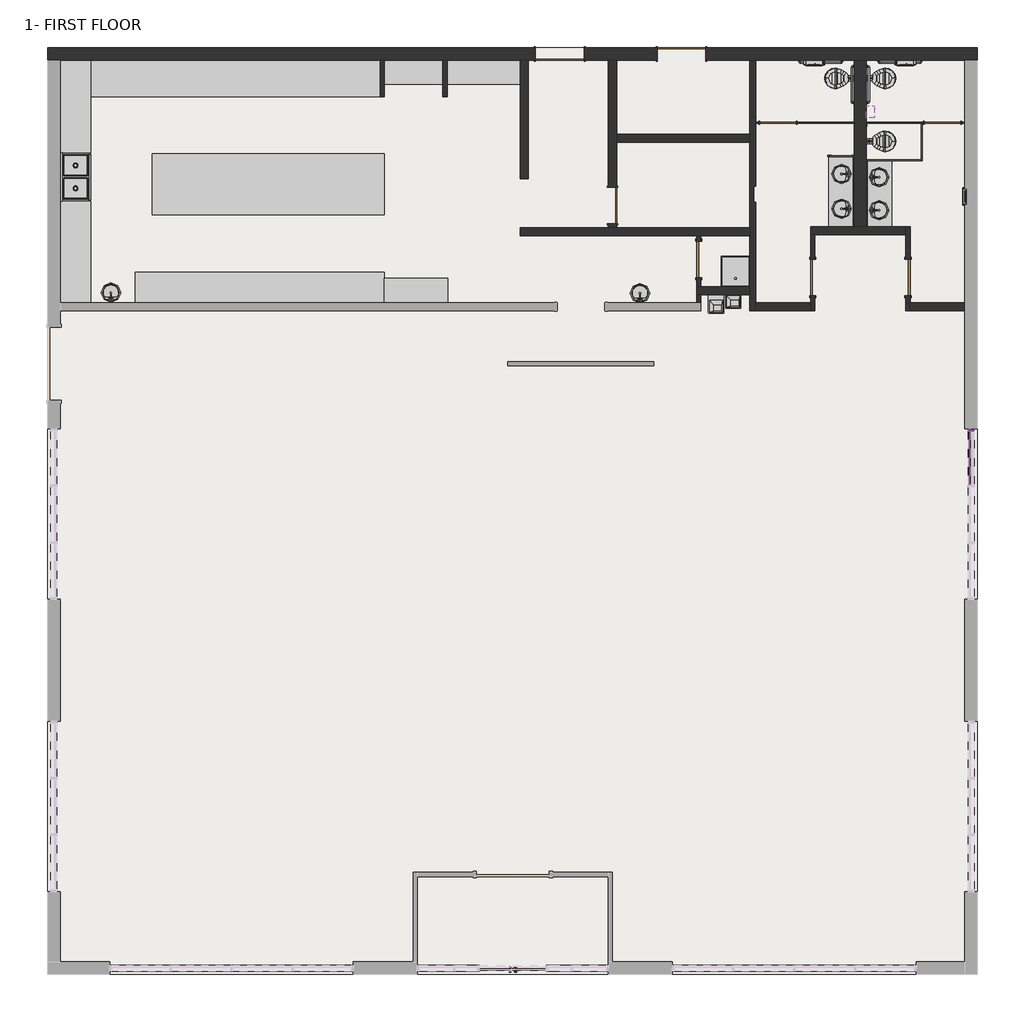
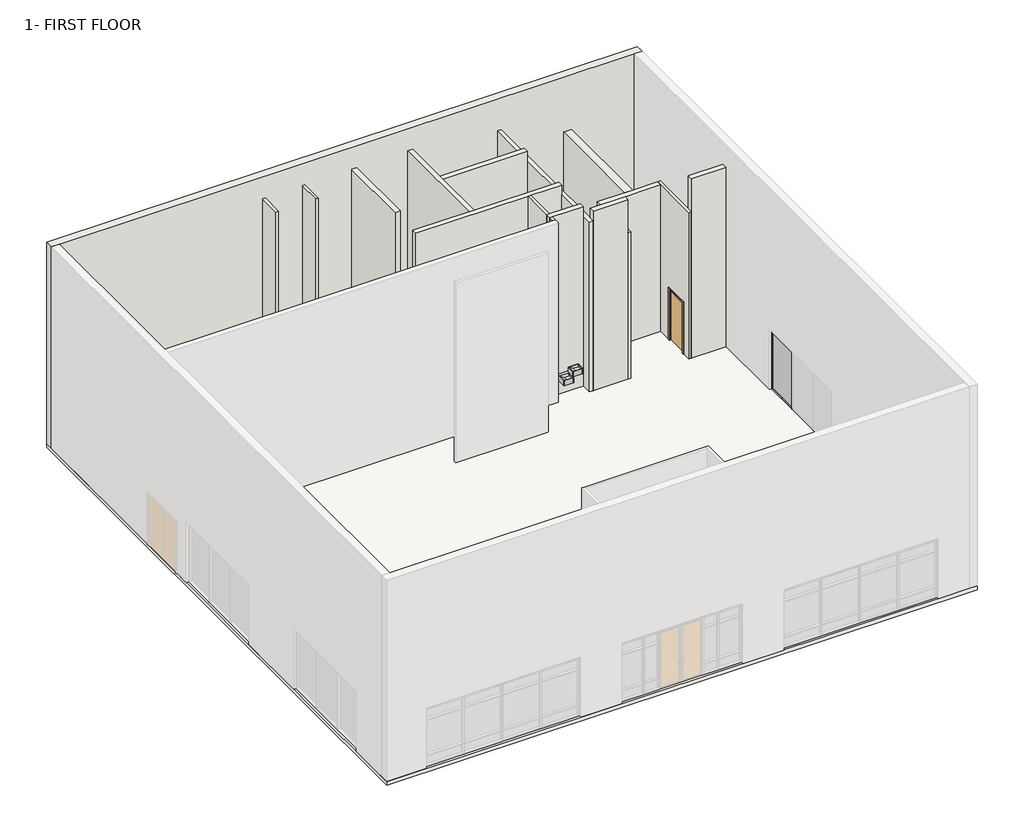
# One storey, part 4 of 4: 19 walls, 13 flow terminals, 10 furniture elements, 9 proxies, 8 doors, 3 members, 2 plates, 1 slab.
"""IFC4 building model written with IfcOpenShell, lengths in millimetres."""

from ifc_helpers import new_model, si_unit, frame, origin, origin_with_axes, place, context, project, spatial, polyline, outline, extrude, faceted_brep, transform, mapped, element, save
from components import specialty_equipment_a66543ee, proxy_90ccbdc6, b_2892_8b92a380, b_3942_b31eb5a3, grab_bar_3d_grab_bar_3d_00f4341b, grab_bar_3d_grab_bar_3d_a3ed3e83, sanitary_napkin_vendor_bobrick_b2706_surface_mounted_b2706_1ca780e9, urinal_screen_bobrick_b1030_urinal_screen_b_1033_217b7228, door_30197504, door_1bfde783, door_633a1af0, door_d072e4ca, door_58341a05, door_34cfb44a, flow_terminal_df21477b, flow_terminal_a46089cf, flow_terminal_d265f877, m_sink_vanity_round_482_x_482mm_5483c1b3, m_sink_vanity_round_482_x_482mm_b62b67b0, flow_terminal_32f39d9c, flow_terminal_5184717d, flow_terminal_6ae34ecf, flow_terminal_faf6b21e, flow_terminal_070f706b, flow_terminal_8339c4de, ct030_countertop_24dx30h_820104b9, ct030_countertop_24dx30h_36d05423, ct030_countertop_24dx30h_fcd22b56, ct030_countertop_30dx30h_2_41c53904, ct030_countertop_30dx30h_2_705c02c1, ct030_countertop_30dx30h_2_7152484d, ct030_countertop_36dx30h_2_9893120a, ct030_countertop_60dx30h_2_f698759c, furniture_e90efae6, furniture_9143c602, rectangular_mullion_50_x_150mm_a8ea6182, rectangular_mullion_50_x_150mm_d49d4e0b, rectangular_mullion_50_x_150mm_662c37b1, system_panel_glazed_50cfc5fc, system_panel_glazed_3a738299

model = new_model("IFC4")

# Units and contexts
model_context = context("Model", 3, world=origin())
ifc_project = project(units=[si_unit("LENGTHUNIT", "METRE", prefix="MILLI")], contexts=[model_context])

# Site, building, storey
site = spatial("IfcSite", under=ifc_project)
building = spatial("IfcBuilding", under=site)
storey = spatial("IfcBuildingStorey", under=building, Name="1- FIRST FLOOR", Elevation=0.0)

# Proxies
placement = place(None, origin())
specialty_equipment_shape = specialty_equipment_a66543ee(model_context)
element("IfcBuildingElementProxy", 1, Name="Dispencer-Toilet Paper-2D : Dispencer-Toilet Paper-2D", ObjectType="Dispencer-Toilet Paper-2D : Dispencer-Toilet Paper-2D", at=placement, inside=storey, context=model_context, shape_type="MappedRepresentation", body=[
    mapped(specialty_equipment_shape, transform((2937.6120129, 8427.3786668, 0.0), x_axis=(0.0, 1.0, 0.0), y_axis=(-1.0, 0.0, 0.0), z_axis=(0.0, 0.0, 1.0))),
])
proxy_shape = proxy_90ccbdc6(model_context)
element("IfcBuildingElementProxy", 2, Name="Toilet Stall-3D w Toilet : 32\" x 56\" Clear", ObjectType="Toilet Stall-3D w Toilet : 32\" x 56\" Clear", at=placement, inside=storey, context=model_context, shape_type="MappedRepresentation", body=[
    mapped(proxy_shape, transform((2785.2120129, 7565.2755129, 0.0), x_axis=(0.0, 1.0, 0.0), y_axis=(-1.0, 0.0, 0.0), z_axis=(0.0, 0.0, 1.0))),
])
b_2892_shape = b_2892_8b92a380(model_context)
element("IfcBuildingElementProxy", 3, Name="Toilet_Tissue_Dispenser-Bobrick-B2892-Twin_Jumbo_Roll-Surface_Mounted : B-2892", ObjectType="Toilet_Tissue_Dispenser-Bobrick-B2892-Twin_Jumbo_Roll-Surface_Mounted : B-2892", at=placement, inside=storey, context=model_context, shape_type="MappedRepresentation", body=[
    mapped(b_2892_shape, transform((1631.8932629, 10002.1786668, 906.4625), x_axis=(-1.0, 0.0, 0.0), y_axis=(0.0, 0.0, -1.0), z_axis=(0.0, -1.0, 0.0))),
])
element("IfcBuildingElementProxy", 4, Name="Toilet_Tissue_Dispenser-Bobrick-B2892-Twin_Jumbo_Roll-Surface_Mounted : B-2892", ObjectType="Toilet_Tissue_Dispenser-Bobrick-B2892-Twin_Jumbo_Roll-Surface_Mounted : B-2892", at=placement, inside=storey, context=model_context, shape_type="MappedRepresentation", body=[
    mapped(b_2892_shape, transform((3913.1307629, 10002.1786668, 906.4625), x_axis=(-1.0, 0.0, 0.0), y_axis=(0.0, 0.0, -1.0), z_axis=(0.0, -1.0, 0.0))),
])
b_3942_shape = b_3942_b31eb5a3(model_context)
element("IfcBuildingElementProxy", 5, Name="Paper_Towel_Dispenser_And_Waste_Receptacle-Bobrick-B3942-Semi_Recessed_Convertible : B-3942", ObjectType="Paper_Towel_Dispenser_And_Waste_Receptacle-Bobrick-B3942-Semi_Recessed_Convertible : B-3942", at=placement, inside=storey, context=model_context, shape_type="MappedRepresentation", body=[
    mapped(b_3942_shape, transform((5401.4120129, 6588.2599168, 530.225), x_axis=(0.0, 1.0, 0.0), y_axis=(0.0, 0.0, -1.0), z_axis=(-1.0, 0.0, 0.0))),
])
grab_bar_3d_grab_bar_3d_shape = grab_bar_3d_grab_bar_3d_00f4341b(model_context)
element("IfcBuildingElementProxy", 6, Name="Grab Bar-3D : Grab Bar-3D", ObjectType="Grab Bar-3D : Grab Bar-3D", at=placement, inside=storey, context=model_context, shape_type="MappedRepresentation", body=[
    mapped(grab_bar_3d_grab_bar_3d_shape, transform((2632.8120129, 10002.1786668, 0.0), x_axis=(0.0, 1.0, 0.0), y_axis=(-1.0, 0.0, 0.0), z_axis=(0.0, 0.0, 1.0))),
])
grab_bar_3d_grab_bar_3d_2_shape = grab_bar_3d_grab_bar_3d_a3ed3e83(model_context)
element("IfcBuildingElementProxy", 7, Name="Grab Bar-3D : Grab Bar-3D", ObjectType="Grab Bar-3D : Grab Bar-3D", at=placement, inside=storey, context=model_context, shape_type="MappedRepresentation", body=[
    mapped(grab_bar_3d_grab_bar_3d_2_shape, transform((2937.6120129, 10002.1786668, 0.0), x_axis=(0.0, 1.0, 0.0), y_axis=(-1.0, 0.0, 0.0), z_axis=(0.0, 0.0, 1.0))),
])
sanitary_napkin_vendor_bobrick_b2706_surface_mounted_b2706_shape = sanitary_napkin_vendor_bobrick_b2706_surface_mounted_b2706_1ca780e9(model_context)
element("IfcBuildingElementProxy", 8, Name="Sanitary_Napkin_Vendor-Bobrick-B2706-Surface_Mounted : B2706", ObjectType="Sanitary_Napkin_Vendor-Bobrick-B2706-Surface_Mounted : B2706", at=placement, inside=storey, context=model_context, shape_type="MappedRepresentation", body=[
    mapped(sanitary_napkin_vendor_bobrick_b2706_surface_mounted_b2706_shape, transform((2937.6120129, 8706.7786668, 1219.2), x_axis=(0.0, -1.0, 0.0), y_axis=(0.0, 0.0, -1.0), z_axis=(1.0, 0.0, 0.0))),
])
urinal_screen_bobrick_b1030_urinal_screen_b_1033_shape = urinal_screen_bobrick_b1030_urinal_screen_b_1033_217b7228(model_context)
element("IfcBuildingElementProxy", 9, Name="Urinal_Screen-Bobrick-B1030 : Urinal Screen B-1033", ObjectType="Urinal_Screen-Bobrick-B1030 : Urinal Screen B-1033", at=placement, inside=storey, context=model_context, shape_type="MappedRepresentation", body=[
    mapped(urinal_screen_bobrick_b1030_urinal_screen_b_1033_shape, transform((2632.8120129, 7601.8786668, 304.8), x_axis=(0.0, -1.0, 0.0), y_axis=(0.0, 0.0, 1.0), z_axis=(-1.0, 0.0, 0.0))),
])

# Doors
door_shape = door_30197504(model_context)
element("IfcDoor", 10, ObjectType="Single-Flush : 36' x 84\"", at=placement, inside=storey, context=model_context, shape_type="MappedRepresentation", body=[
    mapped(door_shape, transform((3979.0120129, 4563.4036668, 0.0), x_axis=(0.0, -1.0, 0.0), y_axis=(1.0, 0.0, 0.0), z_axis=(0.0, 0.0, 1.0))),
])
element("IfcDoor", 11, ObjectType="Single-Flush : 36' x 84\"", at=placement, inside=storey, context=model_context, shape_type="MappedRepresentation", body=[
    mapped(door_shape, transform((-1253.3879871, 5020.6036668, 0.0), x_axis=(0.0, 1.0, 0.0), y_axis=(-1.0, 0.0, 0.0), z_axis=(0.0, 0.0, 1.0))),
])
door_2_shape = door_1bfde783(model_context)
element("IfcDoor", 12, ObjectType="Single-Flush : 36' x 84\"", at=placement, inside=storey, context=model_context, shape_type="MappedRepresentation", body=[
    mapped(door_2_shape, transform((1591.4120129, 4563.4036668, 0.0), x_axis=(0.0, -1.0, 0.0), y_axis=(1.0, 0.0, 0.0), z_axis=(0.0, 0.0, 1.0))),
])
door_3_shape = door_633a1af0(model_context)
element("IfcDoor", 13, ObjectType="Single-Flush : 36' x 84\" (1\")", at=placement, inside=storey, context=model_context, shape_type="MappedRepresentation", body=[
    mapped(door_3_shape, transform((727.8120129, 8440.0786668, 0.0), x_axis=(-1.0, 0.0, 0.0), y_axis=(0.0, -1.0, 0.0), z_axis=(0.0, 0.0, 1.0))),
])
door_4_shape = door_d072e4ca(model_context)
element("IfcDoor", 14, ObjectType="Single-Flush : 36' x 84\" (1\")", at=placement, inside=storey, context=model_context, shape_type="MappedRepresentation", body=[
    mapped(door_4_shape, transform((4842.6120129, 8440.0786668, 0.0), x_axis=(1.0, 0.0, 0.0), y_axis=(0.0, 1.0, 0.0), z_axis=(0.0, 0.0, 1.0))),
])
door_5_shape = door_58341a05(model_context)
element("IfcDoor", 15, ObjectType="Single-Flush : 36' x 84\" (1\")", at=placement, inside=storey, context=model_context, shape_type="MappedRepresentation", body=[
    mapped(door_5_shape, transform((-3412.3879871, 6369.9786668, 0.0), x_axis=(0.0, -1.0, 0.0), y_axis=(1.0, 0.0, 0.0), z_axis=(0.0, 0.0, 1.0))),
])
door_6_shape = door_34cfb44a(model_context)
element("IfcDoor", 16, ObjectType="Single-Flush : 48 x 84\" (1\") 2", at=placement, inside=storey, context=model_context, shape_type="MappedRepresentation", body=[
    mapped(door_6_shape, transform((-4733.1879871, 10159.3411668, 0.0), x_axis=(-1.0, 0.0, 0.0), y_axis=(0.0, -1.0, 0.0), z_axis=(0.0, 0.0, 1.0))),
])
element("IfcDoor", 17, ObjectType="Single-Flush : 48 x 84\" (1\") 2", at=placement, inside=storey, context=model_context, shape_type="MappedRepresentation", body=[
    mapped(door_6_shape, transform((-1685.1879871, 10159.3411668, 0.0), x_axis=(1.0, 0.0, 0.0), y_axis=(0.0, 1.0, 0.0), z_axis=(0.0, 0.0, 1.0))),
])

# Flow terminals
flow_terminal_shape = flow_terminal_df21477b(model_context)
element("IfcFlowTerminal", 18, ObjectType="Drinking Fountain-Hi-Lo-3D : Drinking Fountain-Hi-Lo-3D", at=placement, inside=storey, context=model_context, shape_type="MappedRepresentation", body=[
    mapped(flow_terminal_shape, transform((-617.8065413, 4236.3786668, 0.0), x_axis=(-1.0, 0.0, 0.0), y_axis=(0.0, -1.0, 0.0), z_axis=(0.0, 0.0, 1.0))),
])
flow_terminal_2_shape = flow_terminal_a46089cf(model_context)
flow_terminal_3_shape = flow_terminal_d265f877(model_context)
element("IfcFlowTerminal", 19, ObjectType="equip-sink-elkaySSP-economy-DBL : ByType", at=placement, inside=storey, context=model_context, shape_type="MappedRepresentation", body=[
    mapped(flow_terminal_2_shape, transform((-16848.9879871, 7081.1786668, 0.0), x_axis=(0.0, 1.0, 0.0), y_axis=(-1.0, 0.0, 0.0), z_axis=(0.0, 0.0, 1.0))),
    mapped(flow_terminal_3_shape, transform((-16848.9879871, 7081.1786668, 0.0), x_axis=(0.0, 1.0, 0.0), y_axis=(-1.0, 0.0, 0.0), z_axis=(0.0, 0.0, 1.0))),
])
m_sink_vanity_round_482_x_482mm_shape = m_sink_vanity_round_482_x_482mm_5483c1b3(model_context)
element("IfcFlowTerminal", 20, ObjectType="M_Sink Vanity-Round : 482 x 482mm", at=placement, inside=storey, context=model_context, shape_type="MappedRepresentation", body=[
    mapped(m_sink_vanity_round_482_x_482mm_shape, transform((-2629.9362465, 4257.2562315, 0.0), x_axis=(-1.0, 0.0, 0.0), y_axis=(0.0, -1.0, 0.0), z_axis=(0.0, 0.0, 1.0))),
])
m_sink_vanity_round_482_x_482mm_2_shape = m_sink_vanity_round_482_x_482mm_b62b67b0(model_context)
element("IfcFlowTerminal", 21, ObjectType="M_Sink Vanity-Round : 482 x 482mm", at=placement, inside=storey, context=model_context, shape_type="MappedRepresentation", body=[
    mapped(m_sink_vanity_round_482_x_482mm_2_shape, transform((-16056.6397277, 4272.2162799, 0.0), x_axis=(1.0, 0.0, 0.0), y_axis=(0.0, 1.0, 0.0), z_axis=(0.0, 0.0, 1.0))),
])
flow_terminal_4_shape = flow_terminal_32f39d9c(model_context)
element("IfcFlowTerminal", 22, ObjectType="Sink - Mop : 28\"x28\"", at=placement, inside=storey, context=model_context, shape_type="MappedRepresentation", body=[
    mapped(flow_terminal_4_shape, transform((-694.5879871, 5099.9786668, 0.0), x_axis=(1.0, 0.0, 0.0), y_axis=(0.0, 1.0, 0.0), z_axis=(0.0, 0.0, 1.0))),
])
flow_terminal_5_shape = flow_terminal_5184717d(model_context)
element("IfcFlowTerminal", 23, ObjectType="Sink Vanity-Round : 19\" x 19\"", at=placement, inside=storey, context=model_context, shape_type="MappedRepresentation", body=[
    mapped(flow_terminal_5_shape, transform((2230.1442944, 7250.6111928, 76.2), x_axis=(0.0, -1.0, 0.0), y_axis=(1.0, 0.0, 0.0), z_axis=(0.0, 0.0, 1.0))),
])
element("IfcFlowTerminal", 24, ObjectType="Sink Vanity-Round : 19\" x 19\"", at=placement, inside=storey, context=model_context, shape_type="MappedRepresentation", body=[
    mapped(flow_terminal_5_shape, transform((2230.1442944, 6380.7528684, 76.2), x_axis=(0.0, -1.0, 0.0), y_axis=(1.0, 0.0, 0.0), z_axis=(0.0, 0.0, 1.0))),
])
flow_terminal_6_shape = flow_terminal_6ae34ecf(model_context)
element("IfcFlowTerminal", 25, ObjectType="Sink Vanity-Round : 19\" x 19\"", at=placement, inside=storey, context=model_context, shape_type="MappedRepresentation", body=[
    mapped(flow_terminal_6_shape, transform((3340.2797314, 7170.7949579, 76.2), x_axis=(0.0, -1.0, 0.0), y_axis=(1.0, 0.0, 0.0), z_axis=(0.0, 0.0, 1.0))),
])
element("IfcFlowTerminal", 26, ObjectType="Sink Vanity-Round : 19\" x 19\"", at=placement, inside=storey, context=model_context, shape_type="MappedRepresentation", body=[
    mapped(flow_terminal_6_shape, transform((3340.2797314, 6343.9240591, 76.2), x_axis=(0.0, -1.0, 0.0), y_axis=(1.0, 0.0, 0.0), z_axis=(0.0, 0.0, 1.0))),
])
flow_terminal_7_shape = flow_terminal_faf6b21e(model_context)
element("IfcFlowTerminal", 27, ObjectType="Toilet-Commercial-Wall-3D : 15\" Seat Height", at=placement, inside=storey, context=model_context, shape_type="MappedRepresentation", body=[
    mapped(flow_terminal_7_shape, transform((2785.2120129, 7565.2755129, 0.0), x_axis=(0.0, 1.0, 0.0), y_axis=(-1.0, 0.0, 0.0), z_axis=(0.0, 0.0, 1.0))),
])
flow_terminal_8_shape = flow_terminal_070f706b(model_context)
element("IfcFlowTerminal", 28, ObjectType="Toilet-Commercial-Wall-3D : 19\" Seat Height", at=placement, inside=storey, context=model_context, shape_type="MappedRepresentation", body=[
    mapped(flow_terminal_8_shape, transform((2785.2120129, 9949.8818206, 0.0), x_axis=(0.0, -1.0, 0.0), y_axis=(1.0, 0.0, 0.0), z_axis=(0.0, 0.0, 1.0))),
])
flow_terminal_9_shape = flow_terminal_8339c4de(model_context)
element("IfcFlowTerminal", 29, ObjectType="Toilet-Commercial-Wall-3D : 19\" Seat Height", at=placement, inside=storey, context=model_context, shape_type="MappedRepresentation", body=[
    mapped(flow_terminal_9_shape, transform((2785.2120129, 9949.8818206, 0.0), x_axis=(0.0, -1.0, 0.0), y_axis=(1.0, 0.0, 0.0), z_axis=(0.0, 0.0, 1.0))),
])
element("IfcFlowTerminal", 30, ObjectType="Toilet-Commercial-Wall-3D : 19\" Seat Height", at=placement, inside=storey, context=model_context, shape_type="MappedRepresentation", body=[
    mapped(flow_terminal_9_shape, transform((2785.2120129, 9949.8818206, 0.0), x_axis=(0.0, -1.0, 0.0), y_axis=(1.0, 0.0, 0.0), z_axis=(0.0, 0.0, 1.0))),
])

# Furniture
ct030_countertop_24dx30h_shape = ct030_countertop_24dx30h_820104b9(model_context)
element("IfcFurniture", 31, ObjectType="CT030 COUNTERTOP : 24Dx30H", at=placement, inside=storey, context=model_context, shape_type="MappedRepresentation", body=[
    mapped(ct030_countertop_24dx30h_shape, transform((-8854.6502822, 8777.5786668, 152.4), x_axis=(-1.0, 0.0, 0.0), y_axis=(0.0, -1.0, 0.0), z_axis=(0.0, 0.0, 1.0))),
])
ct030_countertop_24dx30h_2_shape = ct030_countertop_24dx30h_36d05423(model_context)
element("IfcFurniture", 32, ObjectType="CT030 COUNTERTOP : 24Dx30H", at=placement, inside=storey, context=model_context, shape_type="MappedRepresentation", body=[
    mapped(ct030_countertop_24dx30h_2_shape, transform((-8740.3502822, 3316.5786668, 254.0), x_axis=(-1.0, 0.0, 0.0), y_axis=(0.0, -1.0, 0.0), z_axis=(0.0, 0.0, 1.0))),
])
ct030_countertop_24dx30h_3_shape = ct030_countertop_24dx30h_fcd22b56(model_context)
element("IfcFurniture", 33, ObjectType="CT030 COUNTERTOP : 24Dx30H", at=placement, inside=storey, context=model_context, shape_type="MappedRepresentation", body=[
    mapped(ct030_countertop_24dx30h_3_shape, transform((-6924.2502822, 8777.5786668, 152.4), x_axis=(-1.0, 0.0, 0.0), y_axis=(0.0, -1.0, 0.0), z_axis=(0.0, 0.0, 1.0))),
])
ct030_countertop_30dx30h_2_shape = ct030_countertop_30dx30h_2_41c53904(model_context)
element("IfcFurniture", 34, ObjectType="CT030 COUNTERTOP : 30Dx30H 2", at=placement, inside=storey, context=model_context, shape_type="MappedRepresentation", body=[
    mapped(ct030_countertop_30dx30h_2_shape, transform((-10326.2624582, 3468.9786668, 152.4), x_axis=(-1.0, 0.0, 0.0), y_axis=(0.0, -1.0, 0.0), z_axis=(0.0, 0.0, 1.0))),
])
ct030_countertop_30dx30h_2_2_shape = ct030_countertop_30dx30h_2_705c02c1(model_context)
element("IfcFurniture", 35, ObjectType="CT030 COUNTERTOP : 30Dx30H 2", at=placement, inside=storey, context=model_context, shape_type="MappedRepresentation", body=[
    mapped(ct030_countertop_30dx30h_2_2_shape, transform((-17692.5879871, 5132.0409618, 152.4), x_axis=(0.0, 1.0, 0.0), y_axis=(-1.0, 0.0, 0.0), z_axis=(0.0, 0.0, 1.0))),
])
ct030_countertop_30dx30h_2_3_shape = ct030_countertop_30dx30h_2_7152484d(model_context)
element("IfcFurniture", 36, ObjectType="CT030 COUNTERTOP : 30Dx30H 2", at=placement, inside=storey, context=model_context, shape_type="MappedRepresentation", body=[
    mapped(ct030_countertop_30dx30h_2_3_shape, transform((-17692.5879871, 8891.2409618, 152.4), x_axis=(0.0, 1.0, 0.0), y_axis=(-1.0, 0.0, 0.0), z_axis=(0.0, 0.0, 1.0))),
])
ct030_countertop_36dx30h_2_shape = ct030_countertop_36dx30h_2_9893120a(model_context)
element("IfcFurniture", 37, ObjectType="CT030 COUNTERTOP : 36Dx30H 2", at=placement, inside=storey, context=model_context, shape_type="MappedRepresentation", body=[
    mapped(ct030_countertop_36dx30h_2_shape, transform((-10427.8624582, 8777.5786668, 152.4), x_axis=(-1.0, 0.0, 0.0), y_axis=(0.0, -1.0, 0.0), z_axis=(0.0, 0.0, 1.0))),
])
ct030_countertop_60dx30h_2_shape = ct030_countertop_60dx30h_2_f698759c(model_context)
element("IfcFurniture", 38, ObjectType="CT030 COUNTERTOP : 60Dx30H 2", at=placement, inside=storey, context=model_context, shape_type="MappedRepresentation", body=[
    mapped(ct030_countertop_60dx30h_2_shape, transform((-10326.2624582, 6432.5185807, 152.4), x_axis=(-1.0, 0.0, 0.0), y_axis=(0.0, -1.0, 0.0), z_axis=(0.0, 0.0, 1.0))),
])
furniture_shape = furniture_e90efae6(model_context)
element("IfcFurniture", 39, ObjectType="Counter Top w Sinks-3D : 48\"", at=placement, inside=storey, context=model_context, shape_type="MappedRepresentation", body=[
    mapped(furniture_shape, transform((2785.2120129, 6949.9471729, 0.0), x_axis=(0.0, 1.0, 0.0), y_axis=(-1.0, 0.0, 0.0), z_axis=(0.0, 0.0, 1.0))),
])
furniture_2_shape = furniture_9143c602(model_context)
element("IfcFurniture", 40, ObjectType="Counter Top w Sinks-3D : 48\"", at=placement, inside=storey, context=model_context, shape_type="MappedRepresentation", body=[
    mapped(furniture_2_shape, transform((2785.2120129, 6965.2822695, 0.0), x_axis=(0.0, 1.0, 0.0), y_axis=(-1.0, 0.0, 0.0), z_axis=(0.0, 0.0, 1.0))),
])

# Members
rectangular_mullion_50_x_150mm_shape = rectangular_mullion_50_x_150mm_a8ea6182(model_context)
element("IfcMember", 41, ObjectType="Rectangular Mullion : 50 x 150mm", at=placement, inside=storey, context=model_context, shape_type="MappedRepresentation", body=[
    mapped(rectangular_mullion_50_x_150mm_shape, transform((5558.5745129, 779.9786668, 2508.25), x_axis=(0.0, 1.0, 0.0), y_axis=(-1.0, 0.0, 0.0), z_axis=(0.0, 0.0, 1.0))),
])
rectangular_mullion_50_x_150mm_2_shape = rectangular_mullion_50_x_150mm_d49d4e0b(model_context)
element("IfcMember", 42, ObjectType="Rectangular Mullion : 50 x 150mm", at=placement, inside=storey, context=model_context, shape_type="MappedRepresentation", body=[
    mapped(rectangular_mullion_50_x_150mm_2_shape, transform((5558.5745129, 729.9786668, 0.0), x_axis=(0.0, 0.0, -1.0), y_axis=(-1.0, 0.0, 0.0), z_axis=(0.0, 1.0, 0.0))),
])
rectangular_mullion_50_x_150mm_3_shape = rectangular_mullion_50_x_150mm_662c37b1(model_context)
element("IfcMember", 43, ObjectType="Rectangular Mullion : 50 x 150mm", at=placement, inside=storey, context=model_context, shape_type="MappedRepresentation", body=[
    mapped(rectangular_mullion_50_x_150mm_3_shape, transform((5558.5745129, 779.9786668, 2400.0), x_axis=(0.0, 1.0, 0.0), y_axis=(-1.0, 0.0, 0.0), z_axis=(0.0, 0.0, 1.0))),
])

# Plates
system_panel_glazed_shape = system_panel_glazed_50cfc5fc(model_context)
element("IfcPlate", 44, ObjectType="System Panel : Glazed", at=placement, inside=storey, context=model_context, shape_type="MappedRepresentation", body=[
    mapped(system_panel_glazed_shape, transform((5558.5745129, 56.2786667, 50.0), x_axis=(0.0, -1.0, 0.0), y_axis=(1.0, 0.0, 0.0), z_axis=(0.0, 0.0, 1.0))),
])
system_panel_glazed_2_shape = system_panel_glazed_3a738299(model_context)
element("IfcPlate", 45, ObjectType="System Panel : Glazed", at=placement, inside=storey, context=model_context, shape_type="MappedRepresentation", body=[
    mapped(system_panel_glazed_2_shape, transform((5558.5745129, 56.2786667, 2425.0), x_axis=(0.0, -1.0, 0.0), y_axis=(1.0, 0.0, 0.0), z_axis=(0.0, 0.0, 1.0))),
])

# Slab
element("IfcSlab", 46, ObjectType="Generic 6\"", at=placement, inside=storey, context=model_context, shape_type="SweptSolid", body=[
    extrude(outline(polyline([(5715.7370129, 10316.5036668), (5715.7370129, -12867.3463332), (-17544.3129871, -12867.3463332), (-17544.3129871, 10316.5036668), (5715.7370129, 10316.5036668)])), frame((0.0, 0.0, -152.4), z_axis=(0.0, 0.0, 1.0), x_axis=(1.0, 0.0, 0.0)), (0.0, 0.0, 1.0), 152.4),
])

# Walls
element("IfcWall", 47, ObjectType="Exterior - BRICK + CMU", at=placement, inside=storey, context=model_context, shape_type="Brep", body=[
    faceted_brep([(5715.7370129, 10316.5036668, 0.0), (-1075.5879871, 10316.5036668, 0.0), (-1075.5879871, 10316.5036668, 2133.6), (-2294.7879871, 10316.5036668, 2133.6), (-2294.7879871, 10316.5036668, 0.0), (-4123.5879871, 10316.5036668, 0.0), (-4123.5879871, 10316.5036668, 2133.6), (-5342.7879871, 10316.5036668, 2133.6), (-5342.7879871, 10316.5036668, 0.0), (-17544.3129871, 10316.5036668, 0.0), (-17544.3129871, 10316.5036668, 8385.96875), (5715.7370129, 10316.5036668, 8385.96875), (-1075.5879871, 10002.1786668, 2133.6), (-1075.5879871, 10002.1786668, 0.0), (16.6120129, 10002.1786668, 0.0), (169.0120129, 10002.1786668, 0.0), (2632.8120129, 10002.1786668, 0.0), (2937.6120129, 10002.1786668, 0.0), (5401.4120129, 10002.1786668, 0.0), (5715.7370129, 10002.1786668, 0.0), (5715.7370129, 10002.1786668, 8385.96875), (5401.4120129, 10002.1786668, 8385.96875), (-17229.9879871, 10002.1786668, 8385.96875), (-17544.3129871, 10002.1786668, 8385.96875), (-17544.3129871, 10002.1786668, 0.0), (-17229.9879871, 10002.1786668, 0.0), (-9227.4001631, 10002.1786668, 0.0), (-9125.8001631, 10002.1786668, 0.0), (-7654.1879871, 10002.1786668, 0.0), (-7552.5879871, 10002.1786668, 0.0), (-5723.7879871, 10002.1786668, 0.0), (-5520.5879871, 10002.1786668, 0.0), (-5342.7879871, 10002.1786668, 0.0), (-5342.7879871, 10002.1786668, 2133.6), (-4123.5879871, 10002.1786668, 2133.6), (-4123.5879871, 10002.1786668, 0.0), (-3513.9879871, 10002.1786668, 0.0), (-3310.7879871, 10002.1786668, 0.0), (-2294.7879871, 10002.1786668, 0.0), (-2294.7879871, 10002.1786668, 2133.6)], [[[0, 1, 2, 3, 4, 5, 6, 7, 8, 9, 10, 11]], [[12, 13, 14, 15, 16, 17, 18, 19, 20, 21, 22, 23, 24, 25, 26, 27, 28, 29, 30, 31, 32, 33, 34, 35, 36, 37, 38, 39]], [[24, 9, 8, 32, 31, 30, 29, 28, 27, 26, 25]], [[19, 18, 17, 16, 15, 14, 13, 1, 0]], [[38, 37, 36, 35, 5, 4]], [[11, 10, 23, 22, 21, 20]], [[10, 9, 24, 23]], [[0, 11, 20, 19]], [[7, 33, 32, 8]], [[33, 7, 6, 34]], [[34, 6, 5, 35]], [[2, 1, 13, 12]], [[3, 2, 12, 39]], [[4, 3, 39, 38]]]),
])
element("IfcWall", 48, ObjectType="Generic - 1\"", at=placement, inside=storey, context=model_context, shape_type="SweptSolid", body=[
    extrude(outline(polyline([(3048.0, 5401.4120129), (3048.0, 2937.6120129), (0.0, 2937.6120129), (0.0, 4385.4120129), (2133.6, 4385.4120129), (2133.6, 5299.8120129), (0.0, 5299.8120129), (0.0, 5401.4120129), (3048.0, 5401.4120129)])), frame((0.0, 8427.3786668, 0.0), z_axis=(0.0, 1.0, 0.0), x_axis=(0.0, 0.0, 1.0)), (0.0, 0.0, 1.0), 25.4),
])
element("IfcWall", 49, ObjectType="Generic - 1\"", at=placement, inside=storey, context=model_context, shape_type="SweptSolid", body=[
    extrude(outline(polyline([(3048.0, 2632.8120129), (3048.0, 169.0120129), (0.0, 169.0120129), (0.0, 270.6120129), (2133.6, 270.6120129), (2133.6, 1185.0120129), (0.0, 1185.0120129), (0.0, 2632.8120129), (3048.0, 2632.8120129)])), frame((0.0, 8427.3786668, 0.0), z_axis=(0.0, 1.0, 0.0), x_axis=(0.0, 0.0, 1.0)), (0.0, 0.0, 1.0), 25.4),
])
element("IfcWall", 50, ObjectType="Generic - 12\"", at=placement, inside=storey, context=model_context, shape_type="Brep", body=[
    faceted_brep([(2632.8120129, 10002.1786668, 0.0), (2632.8120129, 8452.7786668, 0.0), (2632.8120129, 8427.3786668, 0.0), (2632.8120129, 5833.4036668, 0.0), (2632.8120129, 5833.4036668, 6099.96875), (2632.8120129, 10002.1786668, 6099.96875), (2937.6120129, 10002.1786668, 0.0), (2937.6120129, 10002.1786668, 6099.96875), (2937.6120129, 5833.4036668, 6099.96875), (2937.6120129, 5833.4036668, 0.0), (2937.6120129, 8427.3786668, 0.0), (2937.6120129, 8452.7786668, 0.0)], [[[0, 1, 2, 3, 4, 5]], [[6, 7, 8, 9, 10, 11]], [[3, 2, 1, 0, 6, 11, 10, 9]], [[5, 4, 8, 7]], [[0, 5, 7, 6]], [[4, 3, 9, 8]]]),
])
element("IfcWall", 51, ObjectType="Generic - 4\"", at=placement, inside=storey, context=model_context, shape_type="Brep", body=[
    faceted_brep([(3928.2120129, 3728.3786668, 6099.96875), (3928.2120129, 5630.2036668, 6099.96875), (3928.2120129, 5833.4036668, 6099.96875), (3928.2120129, 5833.4036668, 0.0), (3928.2120129, 5630.2036668, 0.0), (3928.2120129, 5020.6036668, 0.0), (3928.2120129, 5020.6036668, 2133.6), (3928.2120129, 4106.2036668, 2133.6), (3928.2120129, 4106.2036668, 0.0), (3928.2120129, 3728.3786668, 0.0), (4029.8120129, 5833.4036668, 6099.96875), (4029.8120129, 3728.3786668, 6099.96875), (4029.8120129, 3728.3786668, 0.0), (4029.8120129, 3931.5786668, 0.0), (4029.8120129, 4106.2036668, 0.0), (4029.8120129, 4106.2036668, 2133.6), (4029.8120129, 5020.6036668, 2133.6), (4029.8120129, 5020.6036668, 0.0), (4029.8120129, 5833.4036668, 0.0)], [[[0, 1, 2, 3, 4, 5, 6, 7, 8, 9]], [[10, 11, 12, 13, 14, 15, 16, 17, 18]], [[12, 9, 8, 14, 13]], [[3, 18, 17, 5, 4]], [[2, 1, 0, 11, 10]], [[0, 9, 12, 11]], [[3, 2, 10, 18]], [[7, 15, 14, 8]], [[16, 6, 5, 17]], [[6, 16, 15, 7]]]),
])
element("IfcWall", 52, ObjectType="Generic - 4\"", at=placement, inside=storey, context=model_context, shape_type="Brep", body=[
    faceted_brep([(1540.6120129, 4106.2036668, 2133.6), (1540.6120129, 4106.2036668, 0.0), (1540.6120129, 3931.5786668, 0.0), (1540.6120129, 3728.3786668, 0.0), (1540.6120129, 3728.3786668, 6099.96875), (1540.6120129, 5630.2036668, 6099.96875), (1540.6120129, 5630.2036668, 0.0), (1540.6120129, 5020.6036668, 0.0), (1540.6120129, 5020.6036668, 2133.6), (1642.2120129, 3728.3786668, 0.0), (1642.2120129, 4106.2036668, 0.0), (1642.2120129, 4106.2036668, 2133.6), (1642.2120129, 5020.6036668, 2133.6), (1642.2120129, 5020.6036668, 0.0), (1642.2120129, 5630.2036668, 0.0), (1642.2120129, 5630.2036668, 6099.96875), (1642.2120129, 3728.3786668, 6099.96875)], [[[0, 1, 2, 3, 4, 5, 6, 7, 8]], [[9, 10, 11, 12, 13, 14, 15, 16]], [[7, 6, 14, 13]], [[3, 2, 1, 10, 9]], [[5, 4, 16, 15]], [[6, 5, 15, 14]], [[4, 3, 9, 16]], [[11, 10, 1, 0]], [[12, 11, 0, 8]], [[13, 12, 8, 7]]]),
])
element("IfcWall", 53, ObjectType="Generic - 4\"", at=placement, inside=storey, context=model_context, shape_type="SweptSolid", body=[
    extrude(outline(polyline([(4337.9786668, 7471.56875), (5607.9786668, 7471.56875), (5607.9786668, 0.0), (5477.8036668, 0.0), (5477.8036668, 2133.6), (4563.4036668, 2133.6), (4563.4036668, 0.0), (4337.9786668, 0.0), (4337.9786668, 7471.56875)])), frame((-1304.1879871, 0.0, 0.0), z_axis=(1.0, 0.0, 0.0), x_axis=(0.0, 1.0, 0.0)), (0.0, 0.0, 1.0), 101.6),
])
element("IfcWall", 54, ObjectType="Generic - 4\"", at=placement, inside=storey, context=model_context, shape_type="SweptSolid", body=[
    extrude(outline(polyline([(-1304.1879871, 3931.5786668), (-1304.1879871, 4134.7786668), (-1202.5879871, 4134.7786668), (-1202.5879871, 3931.5786668), (-1304.1879871, 3931.5786668)])), origin_with_axes(), (0.0, 0.0, 1.0), 7471.56875),
])
element("IfcWall", 55, ObjectType="Generic - 4\"", at=placement, inside=storey, context=model_context, shape_type="SweptSolid", body=[
    extrude(outline(polyline([(-9227.4001631, 9087.7786668), (-9227.4001631, 10002.1786668), (-9125.8001631, 10002.1786668), (-9125.8001631, 9087.7786668), (-9227.4001631, 9087.7786668)])), origin_with_axes(), (0.0, 0.0, 1.0), 7471.56875),
])
element("IfcWall", 56, ObjectType="Generic - 4\"", at=placement, inside=storey, context=model_context, shape_type="SweptSolid", body=[
    extrude(outline(polyline([(-7654.1879871, 9087.7786668), (-7654.1879871, 10002.1786668), (-7552.5879871, 10002.1786668), (-7552.5879871, 9087.7786668), (-7654.1879871, 9087.7786668)])), origin_with_axes(), (0.0, 0.0, 1.0), 7471.56875),
])
element("IfcWall", 57, ObjectType="Generic - 6\"", at=placement, inside=storey, context=model_context, shape_type="Brep", body=[
    faceted_brep([(16.6120129, 10002.1786668, 0.0), (16.6120129, 8147.9786668, 0.0), (16.6120129, 7944.7786668, 0.0), (16.6120129, 5811.1786668, 0.0), (16.6120129, 5607.9786668, 0.0), (16.6120129, 4337.9786668, 0.0), (16.6120129, 4134.7786668, 0.0), (16.6120129, 3728.3786668, 0.0), (16.6120129, 3728.3786668, 7065.16875), (16.6120129, 10002.1786668, 7065.16875), (169.0120129, 10002.1786668, 7065.16875), (169.0120129, 3728.3786668, 7065.16875), (169.0120129, 3728.3786668, 0.0), (169.0120129, 3931.5786668, 0.0), (169.0120129, 6451.7349168, 0.0), (169.0120129, 6451.7349168, 1220.7875), (169.0120129, 6847.0224168, 1220.7875), (169.0120129, 6847.0224168, 0.0), (169.0120129, 8427.3786668, 0.0), (169.0120129, 8452.7786668, 0.0), (169.0120129, 10002.1786668, 0.0), (118.2120129, 6847.0224168, 0.0), (118.2120129, 6451.7349168, 0.0), (118.2120129, 6847.0224168, 1220.7875), (118.2120129, 6451.7349168, 1220.7875)], [[[0, 1, 2, 3, 4, 5, 6, 7, 8, 9]], [[10, 11, 12, 13, 14, 15, 16, 17, 18, 19, 20]], [[7, 6, 5, 4, 3, 2, 1, 0, 20, 19, 18, 17, 21, 22, 14, 13, 12]], [[9, 8, 11, 10]], [[23, 24, 22, 21]], [[24, 23, 16, 15]], [[24, 15, 14, 22]], [[16, 23, 21, 17]], [[0, 9, 10, 20]], [[8, 7, 12, 11]]]),
])
element("IfcWall", 58, ObjectType="Generic - 8\"", at=placement, inside=storey, context=model_context, shape_type="Brep", body=[
    faceted_brep([(4029.8120129, 3728.3786668, 0.0), (5401.4120129, 3728.3786668, 0.0), (5401.4120129, 3728.3786668, 7471.56875), (4029.8120129, 3728.3786668, 7471.56875), (4029.8120129, 3728.3786668, 6099.96875), (4029.8120129, 3931.5786668, 0.0), (4029.8120129, 3931.5786668, 7471.56875), (5401.4120129, 3931.5786668, 7471.56875), (5401.4120129, 3931.5786668, 0.0)], [[[0, 1, 2, 3, 4]], [[5, 6, 7, 8]], [[1, 0, 5, 8]], [[3, 2, 7, 6]], [[0, 4, 3, 6, 5]], [[2, 1, 8, 7]]]),
])
element("IfcWall", 59, ObjectType="Generic - 8\"", at=placement, inside=storey, context=model_context, shape_type="Brep", body=[
    faceted_brep([(3928.2120129, 5833.4036668, 0.0), (2937.6120129, 5833.4036668, 0.0), (2632.8120129, 5833.4036668, 0.0), (1540.6120129, 5833.4036668, 0.0), (1540.6120129, 5833.4036668, 6099.96875), (2632.8120129, 5833.4036668, 6099.96875), (2937.6120129, 5833.4036668, 6099.96875), (3928.2120129, 5833.4036668, 6099.96875), (3928.2120129, 5630.2036668, 0.0), (3928.2120129, 5630.2036668, 6099.96875), (1642.2120129, 5630.2036668, 6099.96875), (1540.6120129, 5630.2036668, 6099.96875), (1540.6120129, 5630.2036668, 0.0), (1642.2120129, 5630.2036668, 0.0)], [[[0, 1, 2, 3, 4, 5, 6, 7]], [[8, 9, 10, 11, 12, 13]], [[3, 2, 1, 0, 8, 13, 12]], [[7, 6, 5, 4, 11, 10, 9]], [[4, 3, 12, 11]], [[0, 7, 9, 8]]]),
])
element("IfcWall", 60, ObjectType="Generic - 8\"", at=placement, inside=storey, context=model_context, shape_type="Brep", body=[
    faceted_brep([(1540.6120129, 3931.5786668, 0.0), (169.0120129, 3931.5786668, 0.0), (169.0120129, 3931.5786668, 7471.56875), (1540.6120129, 3931.5786668, 7471.56875), (1540.6120129, 3728.3786668, 0.0), (1540.6120129, 3728.3786668, 6099.96875), (1540.6120129, 3728.3786668, 7471.56875), (169.0120129, 3728.3786668, 7471.56875), (169.0120129, 3728.3786668, 7065.16875), (169.0120129, 3728.3786668, 0.0)], [[[0, 1, 2, 3]], [[4, 5, 6, 7, 8, 9]], [[1, 0, 4, 9]], [[3, 2, 7, 6]], [[0, 3, 6, 5, 4]], [[2, 1, 9, 8, 7]]]),
])
element("IfcWall", 61, ObjectType="Generic - 8\"", at=placement, inside=storey, context=model_context, shape_type="Brep", body=[
    faceted_brep([(-1304.1879871, 4134.7786668, 0.0), (-1202.5879871, 4134.7786668, 0.0), (16.6120129, 4134.7786668, 0.0), (16.6120129, 4134.7786668, 7471.56875), (-1202.5879871, 4134.7786668, 7471.56875), (-1304.1879871, 4134.7786668, 7471.56875), (-1304.1879871, 4337.9786668, 0.0), (-1304.1879871, 4337.9786668, 7471.56875), (-1202.5879871, 4337.9786668, 7471.56875), (16.6120129, 4337.9786668, 7471.56875), (16.6120129, 4337.9786668, 0.0), (-1202.5879871, 4337.9786668, 0.0)], [[[0, 1, 2, 3, 4, 5]], [[6, 7, 8, 9, 10, 11]], [[2, 1, 0, 6, 11, 10]], [[5, 4, 3, 9, 8, 7]], [[3, 2, 10, 9]], [[0, 5, 7, 6]]]),
])
element("IfcWall", 62, ObjectType="Generic - 8\"", at=placement, inside=storey, context=model_context, shape_type="Brep", body=[
    faceted_brep([(16.6120129, 5811.1786668, 0.0), (-3310.7879871, 5811.1786668, 0.0), (-3513.9879871, 5811.1786668, 0.0), (-5723.7879871, 5811.1786668, 0.0), (-5723.7879871, 5811.1786668, 7471.56875), (-3513.9879871, 5811.1786668, 7471.56875), (-3310.7879871, 5811.1786668, 7471.56875), (16.6120129, 5811.1786668, 7471.56875), (16.6120129, 5607.9786668, 0.0), (16.6120129, 5607.9786668, 7471.56875), (-1202.5879871, 5607.9786668, 7471.56875), (-1304.1879871, 5607.9786668, 7471.56875), (-5723.7879871, 5607.9786668, 7471.56875), (-5723.7879871, 5607.9786668, 0.0), (-1304.1879871, 5607.9786668, 0.0), (-1202.5879871, 5607.9786668, 0.0)], [[[0, 1, 2, 3, 4, 5, 6, 7]], [[8, 9, 10, 11, 12, 13, 14, 15]], [[3, 2, 1, 0, 8, 15, 14, 13]], [[4, 3, 13, 12]], [[7, 6, 5, 4, 12, 11, 10, 9]], [[0, 7, 9, 8]]]),
])
element("IfcWall", 63, ObjectType="Generic - 8\"", at=placement, inside=storey, context=model_context, shape_type="SweptSolid", body=[
    extrude(outline(polyline([(-5520.5879871, 10002.1786668), (-5520.5879871, 7030.3786668), (-5723.7879871, 7030.3786668), (-5723.7879871, 10002.1786668), (-5520.5879871, 10002.1786668)])), origin_with_axes(), (0.0, 0.0, 1.0), 7471.56875),
])
element("IfcWall", 64, ObjectType="Generic - 8\"", at=placement, inside=storey, context=model_context, shape_type="Brep", body=[
    faceted_brep([(-3513.9879871, 5912.7786668, 2133.6), (-3513.9879871, 5912.7786668, 0.0), (-3513.9879871, 5811.1786668, 0.0), (-3513.9879871, 5811.1786668, 7471.56875), (-3513.9879871, 10002.1786668, 7471.56875), (-3513.9879871, 10002.1786668, 0.0), (-3513.9879871, 6827.1786668, 0.0), (-3513.9879871, 6827.1786668, 2133.6), (-3310.7879871, 5811.1786668, 0.0), (-3310.7879871, 5912.7786668, 0.0), (-3310.7879871, 5912.7786668, 2133.6), (-3310.7879871, 6827.1786668, 2133.6), (-3310.7879871, 6827.1786668, 0.0), (-3310.7879871, 7944.7786668, 0.0), (-3310.7879871, 8147.9786668, 0.0), (-3310.7879871, 10002.1786668, 0.0), (-3310.7879871, 10002.1786668, 7471.56875), (-3310.7879871, 8147.9786668, 7471.56875), (-3310.7879871, 7944.7786668, 7471.56875), (-3310.7879871, 5811.1786668, 7471.56875)], [[[0, 1, 2, 3, 4, 5, 6, 7]], [[8, 9, 10, 11, 12, 13, 14, 15, 16, 17, 18, 19]], [[6, 5, 15, 14, 13, 12]], [[2, 1, 9, 8]], [[4, 3, 19, 18, 17, 16]], [[5, 4, 16, 15]], [[3, 2, 8, 19]], [[10, 9, 1, 0]], [[11, 10, 0, 7]], [[12, 11, 7, 6]]]),
])
element("IfcWall", 65, ObjectType="Generic - 8\"", at=placement, inside=storey, context=model_context, shape_type="SweptSolid", body=[
    extrude(outline(polyline([(16.6120129, 7944.7786668), (-3310.7879871, 7944.7786668), (-3310.7879871, 8147.9786668), (16.6120129, 8147.9786668), (16.6120129, 7944.7786668)])), origin_with_axes(), (0.0, 0.0, 1.0), 7471.56875),
])

save(model, "model.ifc")
